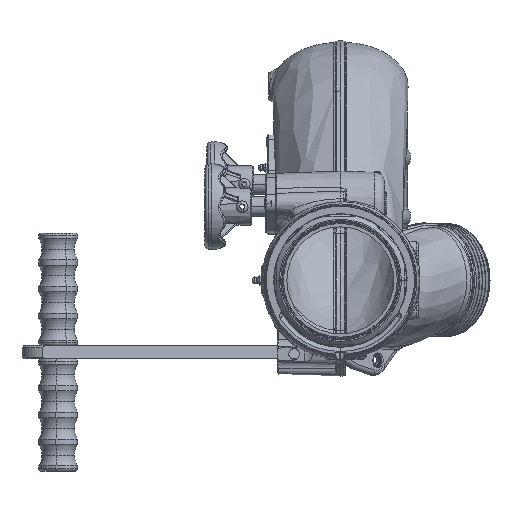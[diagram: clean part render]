
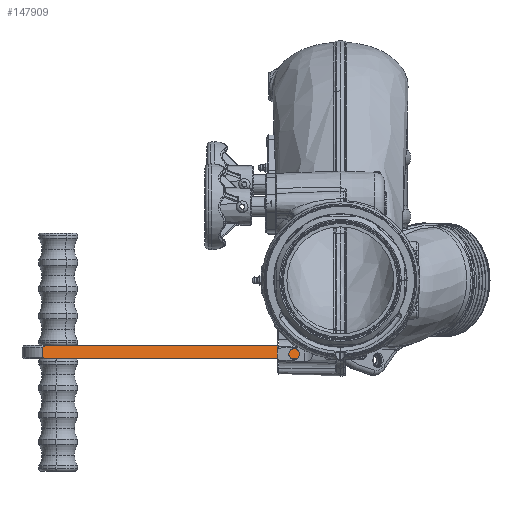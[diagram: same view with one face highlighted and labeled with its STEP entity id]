
A CAD part, front view. The second image highlights one B-rep face of the part: STEP entity #147909.
In plain terms, the highlighted planar face has unit normal (0.423, -0.906, 0).
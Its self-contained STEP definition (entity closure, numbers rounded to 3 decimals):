
#3396 = DIRECTION ( 'NONE',  ( -0.423, 0.906, 0. ) ) ;
#4044 = EDGE_CURVE ( 'NONE', #15292, #94406, #44040, .T. ) ;
#7326 = DIRECTION ( 'NONE',  ( 0.906, 0.423, 0. ) ) ;
#10719 = CARTESIAN_POINT ( 'NONE',  ( -0.536, 9.679, -2.435 ) ) ;
#11286 = B_SPLINE_CURVE_WITH_KNOTS ( 'NONE', 3,
 ( #114513, #115527, #103271, #103769 ),
 .UNSPECIFIED., .F., .F.,
 ( 4, 4 ),
 ( 0., 0.004 ),
 .UNSPECIFIED. ) ;
#15292 = VERTEX_POINT ( 'NONE', #79471 ) ;
#18009 = LINE ( 'NONE', #40058, #103882 ) ;
#22254 = CARTESIAN_POINT ( 'NONE',  ( -11.545, 4.546, -2.435 ) ) ;
#24541 = VECTOR ( 'NONE', #25333, 39.37 ) ;
#25333 = DIRECTION ( 'NONE',  ( 0., 0., -1. ) ) ;
#32301 = CARTESIAN_POINT ( 'NONE',  ( -11.022, 4.79, -2.435 ) ) ;
#33903 = AXIS2_PLACEMENT_3D ( 'NONE', #107628, #3396, #96854 ) ;
#36466 = CARTESIAN_POINT ( 'NONE',  ( -11.06, 4.772, -2.916 ) ) ;
#37035 = CARTESIAN_POINT ( 'NONE',  ( -0.271, 9.803, -2.835 ) ) ;
#37630 = FACE_OUTER_BOUND ( 'NONE', #83113, .T. ) ;
#38411 = CARTESIAN_POINT ( 'NONE',  ( -11.135, 4.737, -2.873 ) ) ;
#39698 = ORIENTED_EDGE ( 'NONE', *, *, #4044, .T. ) ;
#40058 = CARTESIAN_POINT ( 'NONE',  ( -0.271, 9.803, -2.435 ) ) ;
#40848 = LINE ( 'NONE', #58051, #24541 ) ;
#41278 = CARTESIAN_POINT ( 'NONE',  ( -0.536, 9.679, -2.935 ) ) ;
#41410 = B_SPLINE_CURVE_WITH_KNOTS ( 'NONE', 3,
 ( #38411, #142642, #36466, #59427 ),
 .UNSPECIFIED., .F., .F.,
 ( 4, 4 ),
 ( 0., 0.004 ),
 .UNSPECIFIED. ) ;
#42879 = VERTEX_POINT ( 'NONE', #71427 ) ;
#43270 = DIRECTION ( 'NONE',  ( 0.858, 0.4, 0.324 ) ) ;
#43324 = ORIENTED_EDGE ( 'NONE', *, *, #107252, .T. ) ;
#43811 = LINE ( 'NONE', #138269, #65737 ) ;
#44040 = LINE ( 'NONE', #53817, #109790 ) ;
#45602 = VERTEX_POINT ( 'NONE', #135090 ) ;
#46645 = VERTEX_POINT ( 'NONE', #109079 ) ;
#53817 = CARTESIAN_POINT ( 'NONE',  ( -11.545, 4.546, -2.935 ) ) ;
#54606 = ORIENTED_EDGE ( 'NONE', *, *, #57394, .F. ) ;
#57394 = EDGE_CURVE ( 'NONE', #61864, #71086, #134282, .T. ) ;
#58051 = CARTESIAN_POINT ( 'NONE',  ( -11.135, 4.737, -2.435 ) ) ;
#59427 = CARTESIAN_POINT ( 'NONE',  ( -11.022, 4.79, -2.935 ) ) ;
#59779 = LINE ( 'NONE', #97328, #74377 ) ;
#60257 = ORIENTED_EDGE ( 'NONE', *, *, #67209, .T. ) ;
#61864 = VERTEX_POINT ( 'NONE', #32301 ) ;
#65737 = VECTOR ( 'NONE', #43270, 39.37 ) ;
#67209 = EDGE_CURVE ( 'NONE', #46645, #15292, #41410, .T. ) ;
#68814 = EDGE_CURVE ( 'NONE', #61864, #42879, #11286, .T. ) ;
#71086 = VERTEX_POINT ( 'NONE', #10719 ) ;
#71102 = DIRECTION ( 'NONE',  ( 0.906, 0.423, 0. ) ) ;
#71372 = ORIENTED_EDGE ( 'NONE', *, *, #68814, .T. ) ;
#71427 = CARTESIAN_POINT ( 'NONE',  ( -11.135, 4.737, -2.498 ) ) ;
#73829 = DIRECTION ( 'NONE',  ( -0.858, -0.4, 0.324 ) ) ;
#74377 = VECTOR ( 'NONE', #73829, 39.37 ) ;
#75249 = DIRECTION ( 'NONE',  ( 0., 0., -1. ) ) ;
#76785 = ORIENTED_EDGE ( 'NONE', *, *, #80845, .F. ) ;
#79471 = CARTESIAN_POINT ( 'NONE',  ( -11.022, 4.79, -2.935 ) ) ;
#80845 = EDGE_CURVE ( 'NONE', #45602, #143506, #18009, .T. ) ;
#83113 = EDGE_LOOP ( 'NONE', ( #54606, #71372, #147980, #60257, #39698, #43324, #76785, #94915 ) ) ;
#92121 = VECTOR ( 'NONE', #71102, 39.37 ) ;
#94406 = VERTEX_POINT ( 'NONE', #41278 ) ;
#94915 = ORIENTED_EDGE ( 'NONE', *, *, #133403, .T. ) ;
#95861 = PLANE ( 'NONE',  #33903 ) ;
#96854 = DIRECTION ( 'NONE',  ( 0., 0., -1. ) ) ;
#97328 = CARTESIAN_POINT ( 'NONE',  ( -9.239, 5.621, 0.849 ) ) ;
#103271 = CARTESIAN_POINT ( 'NONE',  ( -11.098, 4.754, -2.475 ) ) ;
#103769 = CARTESIAN_POINT ( 'NONE',  ( -11.135, 4.737, -2.498 ) ) ;
#103882 = VECTOR ( 'NONE', #75249, 39.37 ) ;
#107252 = EDGE_CURVE ( 'NONE', #94406, #143506, #43811, .T. ) ;
#107628 = CARTESIAN_POINT ( 'NONE',  ( -11.545, 4.546, -2.935 ) ) ;
#109079 = CARTESIAN_POINT ( 'NONE',  ( -11.135, 4.737, -2.873 ) ) ;
#109790 = VECTOR ( 'NONE', #7326, 39.37 ) ;
#114513 = CARTESIAN_POINT ( 'NONE',  ( -11.022, 4.79, -2.435 ) ) ;
#115527 = CARTESIAN_POINT ( 'NONE',  ( -11.06, 4.772, -2.454 ) ) ;
#133403 = EDGE_CURVE ( 'NONE', #45602, #71086, #59779, .T. ) ;
#134282 = LINE ( 'NONE', #22254, #92121 ) ;
#135090 = CARTESIAN_POINT ( 'NONE',  ( -0.271, 9.803, -2.535 ) ) ;
#138269 = CARTESIAN_POINT ( 'NONE',  ( 1.063, 10.425, -2.331 ) ) ;
#142580 = EDGE_CURVE ( 'NONE', #42879, #46645, #40848, .T. ) ;
#142642 = CARTESIAN_POINT ( 'NONE',  ( -11.098, 4.754, -2.895 ) ) ;
#143506 = VERTEX_POINT ( 'NONE', #37035 ) ;
#147909 = ADVANCED_FACE ( 'NONE', ( #37630 ), #95861, .F. ) ;
#147980 = ORIENTED_EDGE ( 'NONE', *, *, #142580, .T. ) ;
